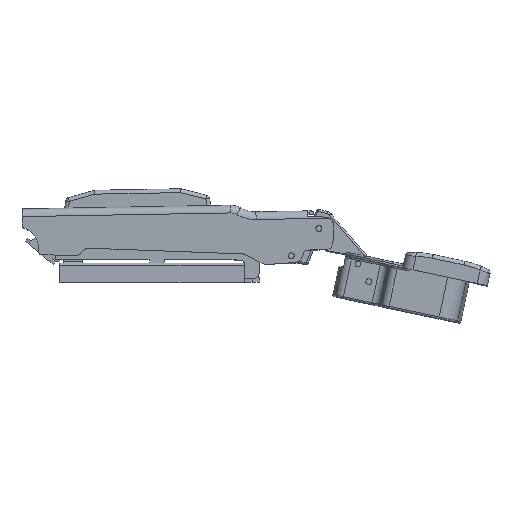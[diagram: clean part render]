
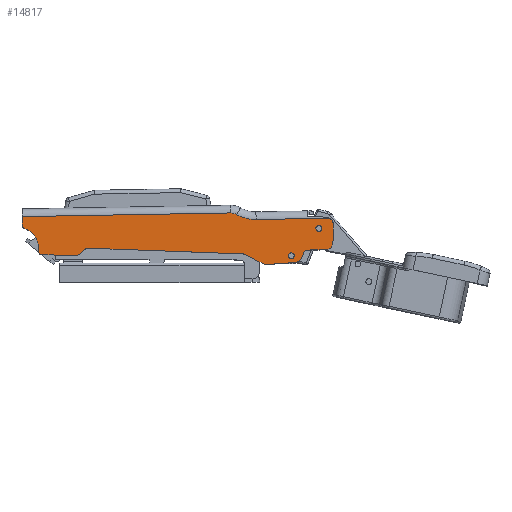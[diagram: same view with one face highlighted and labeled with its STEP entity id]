
A CAD part, top view. The second image highlights one B-rep face of the part: STEP entity #14817.
In plain terms, the highlighted planar face has unit normal (0, 0, 1).
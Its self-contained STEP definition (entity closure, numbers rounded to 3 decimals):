
#1135=FACE_BOUND('',#3302,.T.);
#1136=FACE_BOUND('',#3303,.T.);
#1689=CIRCLE('',#16031,1.);
#1692=CIRCLE('',#16035,5.);
#1706=CIRCLE('',#16051,1.);
#1734=CIRCLE('',#16121,9.749);
#1737=CIRCLE('',#16125,3.);
#1739=CIRCLE('',#16138,1.);
#1740=CIRCLE('',#16143,1.);
#1741=CIRCLE('',#16148,1.);
#1742=CIRCLE('',#16153,2.);
#1743=CIRCLE('',#16158,2.);
#1744=CIRCLE('',#16163,1.);
#1745=CIRCLE('',#16168,2.);
#1746=CIRCLE('',#16172,2.);
#1747=CIRCLE('',#16176,0.75);
#1748=CIRCLE('',#16178,0.75);
#2448=FACE_OUTER_BOUND('',#3301,.T.);
#3301=EDGE_LOOP('',(#11372,#11373,#11374,#11375,#11376,#11377,#11378,#11379,
#11380,#11381,#11382,#11383,#11384,#11385,#11386,#11387,#11388,#11389,#11390,
#11391,#11392,#11393,#11394,#11395));
#3302=EDGE_LOOP('',(#11396));
#3303=EDGE_LOOP('',(#11397));
#4182=LINE('',#22755,#5459);
#4221=LINE('',#22926,#5498);
#4265=LINE('',#23123,#5542);
#4266=LINE('',#23144,#5543);
#4276=LINE('',#23169,#5553);
#4281=LINE('',#23181,#5558);
#4286=LINE('',#23193,#5563);
#4291=LINE('',#23205,#5568);
#4296=LINE('',#23217,#5573);
#4301=LINE('',#23229,#5578);
#4305=LINE('',#23240,#5582);
#5459=VECTOR('',#18215,10.);
#5498=VECTOR('',#18368,10.);
#5542=VECTOR('',#18542,10.);
#5543=VECTOR('',#18563,10.);
#5553=VECTOR('',#18599,10.);
#5558=VECTOR('',#18614,10.);
#5563=VECTOR('',#18629,10.);
#5568=VECTOR('',#18644,10.);
#5573=VECTOR('',#18659,10.);
#5578=VECTOR('',#18674,10.);
#5582=VECTOR('',#18688,10.);
#6762=VERTEX_POINT('',#22752);
#6763=VERTEX_POINT('',#22754);
#6811=VERTEX_POINT('',#22862);
#6814=VERTEX_POINT('',#22870);
#6837=VERTEX_POINT('',#22920);
#6838=VERTEX_POINT('',#22924);
#6881=VERTEX_POINT('',#23120);
#6882=VERTEX_POINT('',#23122);
#6885=VERTEX_POINT('',#23134);
#6886=VERTEX_POINT('',#23139);
#6887=VERTEX_POINT('',#23161);
#6888=VERTEX_POINT('',#23167);
#6889=VERTEX_POINT('',#23173);
#6890=VERTEX_POINT('',#23179);
#6891=VERTEX_POINT('',#23185);
#6892=VERTEX_POINT('',#23191);
#6893=VERTEX_POINT('',#23197);
#6894=VERTEX_POINT('',#23203);
#6895=VERTEX_POINT('',#23209);
#6896=VERTEX_POINT('',#23215);
#6897=VERTEX_POINT('',#23221);
#6898=VERTEX_POINT('',#23227);
#6899=VERTEX_POINT('',#23233);
#6900=VERTEX_POINT('',#23238);
#6901=VERTEX_POINT('',#23247);
#6902=VERTEX_POINT('',#23251);
#8293=EDGE_CURVE('',#6763,#6762,#4182,.T.);
#8348=EDGE_CURVE('',#6811,#6762,#1689,.T.);
#8353=EDGE_CURVE('',#6811,#6814,#1692,.T.);
#8377=EDGE_CURVE('',#6837,#6814,#1706,.T.);
#8380=EDGE_CURVE('',#6837,#6838,#4221,.T.);
#8460=EDGE_CURVE('',#6881,#6882,#4265,.T.);
#8464=EDGE_CURVE('',#6885,#6881,#1734,.T.);
#8467=EDGE_CURVE('',#6886,#6885,#1737,.T.);
#8469=EDGE_CURVE('',#6763,#6886,#4266,.T.);
#8477=EDGE_CURVE('',#6838,#6887,#1739,.T.);
#8480=EDGE_CURVE('',#6887,#6888,#4276,.T.);
#8483=EDGE_CURVE('',#6888,#6889,#1740,.T.);
#8486=EDGE_CURVE('',#6889,#6890,#4281,.T.);
#8489=EDGE_CURVE('',#6890,#6891,#1741,.T.);
#8492=EDGE_CURVE('',#6891,#6892,#4286,.T.);
#8495=EDGE_CURVE('',#6892,#6893,#1742,.T.);
#8498=EDGE_CURVE('',#6893,#6894,#4291,.T.);
#8501=EDGE_CURVE('',#6894,#6895,#1743,.T.);
#8504=EDGE_CURVE('',#6895,#6896,#4296,.T.);
#8507=EDGE_CURVE('',#6896,#6897,#1744,.T.);
#8510=EDGE_CURVE('',#6897,#6898,#4301,.T.);
#8513=EDGE_CURVE('',#6898,#6899,#1745,.T.);
#8515=EDGE_CURVE('',#6899,#6900,#4305,.T.);
#8516=EDGE_CURVE('',#6900,#6882,#1746,.T.);
#8519=EDGE_CURVE('',#6901,#6901,#1747,.T.);
#8521=EDGE_CURVE('',#6902,#6902,#1748,.T.);
#11372=ORIENTED_EDGE('',*,*,#8348,.F.);
#11373=ORIENTED_EDGE('',*,*,#8353,.T.);
#11374=ORIENTED_EDGE('',*,*,#8377,.F.);
#11375=ORIENTED_EDGE('',*,*,#8380,.T.);
#11376=ORIENTED_EDGE('',*,*,#8477,.T.);
#11377=ORIENTED_EDGE('',*,*,#8480,.T.);
#11378=ORIENTED_EDGE('',*,*,#8483,.T.);
#11379=ORIENTED_EDGE('',*,*,#8486,.T.);
#11380=ORIENTED_EDGE('',*,*,#8489,.T.);
#11381=ORIENTED_EDGE('',*,*,#8492,.T.);
#11382=ORIENTED_EDGE('',*,*,#8495,.T.);
#11383=ORIENTED_EDGE('',*,*,#8498,.T.);
#11384=ORIENTED_EDGE('',*,*,#8501,.T.);
#11385=ORIENTED_EDGE('',*,*,#8504,.T.);
#11386=ORIENTED_EDGE('',*,*,#8507,.T.);
#11387=ORIENTED_EDGE('',*,*,#8510,.T.);
#11388=ORIENTED_EDGE('',*,*,#8513,.T.);
#11389=ORIENTED_EDGE('',*,*,#8515,.T.);
#11390=ORIENTED_EDGE('',*,*,#8516,.T.);
#11391=ORIENTED_EDGE('',*,*,#8460,.F.);
#11392=ORIENTED_EDGE('',*,*,#8464,.F.);
#11393=ORIENTED_EDGE('',*,*,#8467,.F.);
#11394=ORIENTED_EDGE('',*,*,#8469,.F.);
#11395=ORIENTED_EDGE('',*,*,#8293,.T.);
#11396=ORIENTED_EDGE('',*,*,#8519,.T.);
#11397=ORIENTED_EDGE('',*,*,#8521,.T.);
#14274=PLANE('',#16181);
#14817=ADVANCED_FACE('',(#2448,#1135,#1136),#14274,.T.);
#16031=AXIS2_PLACEMENT_3D('',#22863,#18310,#18311);
#16035=AXIS2_PLACEMENT_3D('',#22872,#18320,#18321);
#16051=AXIS2_PLACEMENT_3D('',#22921,#18362,#18363);
#16121=AXIS2_PLACEMENT_3D('',#23136,#18549,#18550);
#16125=AXIS2_PLACEMENT_3D('',#23141,#18557,#18558);
#16138=AXIS2_PLACEMENT_3D('',#23163,#18591,#18592);
#16143=AXIS2_PLACEMENT_3D('',#23175,#18606,#18607);
#16148=AXIS2_PLACEMENT_3D('',#23187,#18621,#18622);
#16153=AXIS2_PLACEMENT_3D('',#23199,#18636,#18637);
#16158=AXIS2_PLACEMENT_3D('',#23211,#18651,#18652);
#16163=AXIS2_PLACEMENT_3D('',#23223,#18666,#18667);
#16168=AXIS2_PLACEMENT_3D('',#23235,#18681,#18682);
#16172=AXIS2_PLACEMENT_3D('',#23242,#18691,#18692);
#16176=AXIS2_PLACEMENT_3D('',#23249,#18701,#18702);
#16178=AXIS2_PLACEMENT_3D('',#23253,#18706,#18707);
#16181=AXIS2_PLACEMENT_3D('',#23258,#18714,#18715);
#18215=DIRECTION('',(0.028,-1.,0.));
#18310=DIRECTION('center_axis',(0.,0.,-1.));
#18311=DIRECTION('ref_axis',(-0.784,-0.621,0.));
#18320=DIRECTION('center_axis',(0.,0.,-1.));
#18321=DIRECTION('ref_axis',(-0.943,0.334,0.));
#18362=DIRECTION('center_axis',(0.,0.,-1.));
#18363=DIRECTION('ref_axis',(-0.745,-0.667,0.));
#18368=DIRECTION('',(1.,0.,0.));
#18542=DIRECTION('',(0.999,0.054,0.));
#18549=DIRECTION('center_axis',(0.,0.,1.));
#18550=DIRECTION('ref_axis',(-0.214,-0.977,0.));
#18557=DIRECTION('center_axis',(0.,0.,-1.));
#18558=DIRECTION('ref_axis',(0.214,0.977,0.));
#18563=DIRECTION('',(0.999,0.054,0.));
#18591=DIRECTION('center_axis',(0.,0.,1.));
#18592=DIRECTION('ref_axis',(0.,-1.,0.));
#18599=DIRECTION('',(0.743,0.669,0.));
#18606=DIRECTION('center_axis',(0.,0.,-1.));
#18607=DIRECTION('ref_axis',(0.,-1.,0.));
#18614=DIRECTION('',(1.,0.,0.));
#18621=DIRECTION('center_axis',(0.,0.,-1.));
#18622=DIRECTION('ref_axis',(-0.414,-0.91,0.));
#18629=DIRECTION('',(0.91,-0.414,0.));
#18636=DIRECTION('center_axis',(0.,0.,1.));
#18637=DIRECTION('ref_axis',(-0.414,-0.91,0.));
#18644=DIRECTION('',(0.994,0.107,0.));
#18651=DIRECTION('center_axis',(0.,0.,1.));
#18652=DIRECTION('ref_axis',(0.107,-0.994,0.));
#18659=DIRECTION('',(0.355,0.935,0.));
#18666=DIRECTION('center_axis',(0.,0.,-1.));
#18667=DIRECTION('ref_axis',(0.049,-0.999,0.));
#18674=DIRECTION('',(0.999,0.049,0.));
#18681=DIRECTION('center_axis',(0.,0.,1.));
#18682=DIRECTION('ref_axis',(0.049,-0.999,0.));
#18688=DIRECTION('',(-0.016,1.,0.));
#18691=DIRECTION('center_axis',(0.,0.,1.));
#18692=DIRECTION('ref_axis',(1.,0.016,0.));
#18701=DIRECTION('center_axis',(0.,0.,-1.));
#18702=DIRECTION('ref_axis',(-1.,0.,0.));
#18706=DIRECTION('center_axis',(0.,0.,-1.));
#18707=DIRECTION('ref_axis',(-1.,0.,0.));
#18714=DIRECTION('center_axis',(0.,0.,1.));
#18715=DIRECTION('ref_axis',(1.,0.,0.));
#22752=CARTESIAN_POINT('',(-5.24,7.037,8.5));
#22754=CARTESIAN_POINT('',(-5.301,9.249,8.5));
#22755=CARTESIAN_POINT('',(-5.356,11.249,8.5));
#22862=CARTESIAN_POINT('',(-4.496,6.097,8.5));
#22863=CARTESIAN_POINT('Origin',(-4.24,7.064,8.5));
#22870=CARTESIAN_POINT('',(-0.806,0.707,8.5));
#22872=CARTESIAN_POINT('Origin',(-5.775,1.264,8.5));
#22920=CARTESIAN_POINT('',(0.188,-0.405,8.5));
#22921=CARTESIAN_POINT('Origin',(0.188,0.595,8.5));
#22924=CARTESIAN_POINT('',(8.954,-0.405,8.5));
#22926=CARTESIAN_POINT('',(-1.061,-0.405,8.5));
#23120=CARTESIAN_POINT('',(55.398,10.743,8.5));
#23122=CARTESIAN_POINT('',(74.47,11.783,8.5));
#23123=CARTESIAN_POINT('',(51.778,10.545,8.5));
#23134=CARTESIAN_POINT('',(50.316,11.856,8.5));
#23136=CARTESIAN_POINT('Origin',(54.867,20.477,8.5));
#23139=CARTESIAN_POINT('',(48.753,12.198,8.5));
#23141=CARTESIAN_POINT('Origin',(48.916,9.203,8.5));
#23144=CARTESIAN_POINT('',(41.721,11.815,8.5));
#23161=CARTESIAN_POINT('',(9.623,-0.148,8.5));
#23163=CARTESIAN_POINT('Origin',(8.954,0.595,8.5));
#23167=CARTESIAN_POINT('',(11.385,1.438,8.5));
#23169=CARTESIAN_POINT('',(9.623,-0.148,8.5));
#23173=CARTESIAN_POINT('',(12.054,1.695,8.5));
#23175=CARTESIAN_POINT('Origin',(12.054,0.695,8.5));
#23179=CARTESIAN_POINT('',(52.297,1.695,8.5));
#23181=CARTESIAN_POINT('',(12.054,1.695,8.5));
#23185=CARTESIAN_POINT('',(52.711,1.605,8.5));
#23187=CARTESIAN_POINT('Origin',(52.297,0.695,8.5));
#23191=CARTESIAN_POINT('',(57.638,-0.637,8.5));
#23193=CARTESIAN_POINT('',(52.711,1.605,8.5));
#23197=CARTESIAN_POINT('',(58.68,-0.805,8.5));
#23199=CARTESIAN_POINT('Origin',(58.466,1.184,8.5));
#23203=CARTESIAN_POINT('',(65.923,-0.028,8.5));
#23205=CARTESIAN_POINT('',(58.68,-0.805,8.5));
#23209=CARTESIAN_POINT('',(67.579,1.251,8.5));
#23211=CARTESIAN_POINT('Origin',(65.71,1.961,8.5));
#23215=CARTESIAN_POINT('',(68.12,2.674,8.5));
#23217=CARTESIAN_POINT('',(67.579,1.251,8.5));
#23221=CARTESIAN_POINT('',(69.006,3.318,8.5));
#23223=CARTESIAN_POINT('Origin',(69.055,2.319,8.5));
#23227=CARTESIAN_POINT('',(73.653,3.547,8.5));
#23229=CARTESIAN_POINT('',(69.006,3.318,8.5));
#23233=CARTESIAN_POINT('',(75.555,5.577,8.5));
#23235=CARTESIAN_POINT('Origin',(73.555,5.544,8.5));
#23238=CARTESIAN_POINT('',(75.482,10.077,8.5));
#23240=CARTESIAN_POINT('',(75.555,5.577,8.5));
#23242=CARTESIAN_POINT('Origin',(73.482,10.045,8.5));
#23247=CARTESIAN_POINT('',(65.637,1.681,8.5));
#23249=CARTESIAN_POINT('Origin',(64.887,1.681,8.5));
#23251=CARTESIAN_POINT('',(72.505,9.004,8.5));
#23253=CARTESIAN_POINT('Origin',(71.755,9.004,8.5));
#23258=CARTESIAN_POINT('Origin',(34.931,7.027,8.5));
